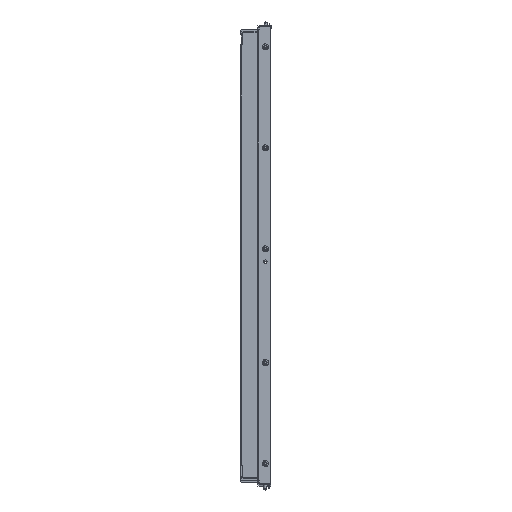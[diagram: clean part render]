
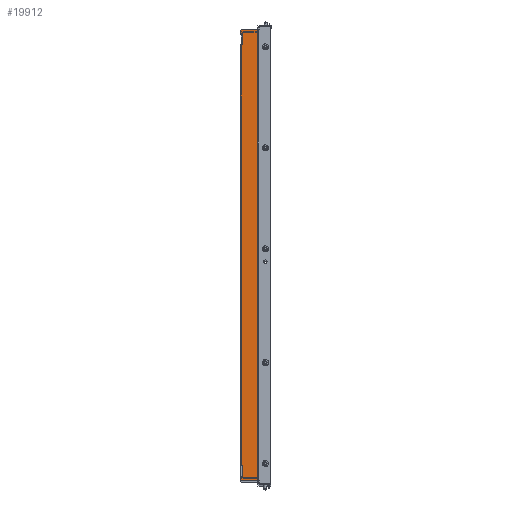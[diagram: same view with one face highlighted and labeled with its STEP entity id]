
A CAD part, top view. The second image highlights one B-rep face of the part: STEP entity #19912.
In plain terms, the highlighted planar face has unit normal (0, 0, 1).
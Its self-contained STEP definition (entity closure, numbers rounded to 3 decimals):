
#33 = ORIENTED_EDGE ( 'NONE', *, *, #34167, .F. ) ;
#660 = CARTESIAN_POINT ( 'NONE',  ( -29.193, -13.122, 2680. ) ) ;
#983 = CARTESIAN_POINT ( 'NONE',  ( -30.693, 16.878, 2680. ) ) ;
#985 = ORIENTED_EDGE ( 'NONE', *, *, #38042, .T. ) ;
#1574 = EDGE_CURVE ( 'NONE', #65885, #21383, #8192, .T. ) ;
#1699 = VERTEX_POINT ( 'NONE', #37254 ) ;
#2070 = VECTOR ( 'NONE', #2642, 1000. ) ;
#2157 = VECTOR ( 'NONE', #51408, 1000. ) ;
#2642 = DIRECTION ( 'NONE',  ( 1., 0., 0. ) ) ;
#2985 = CARTESIAN_POINT ( 'NONE',  ( -31.193, 885.378, 2680. ) ) ;
#2988 = LINE ( 'NONE', #54626, #66611 ) ;
#3505 = LINE ( 'NONE', #13889, #25215 ) ;
#4508 = CARTESIAN_POINT ( 'NONE',  ( -27.493, 885.378, 2680. ) ) ;
#4628 = LINE ( 'NONE', #46892, #11728 ) ;
#4660 = CARTESIAN_POINT ( 'NONE',  ( -27.493, 885.378, 2680. ) ) ;
#4921 = LINE ( 'NONE', #10802, #50302 ) ;
#5297 = EDGE_CURVE ( 'NONE', #17882, #44501, #14725, .T. ) ;
#6941 = VECTOR ( 'NONE', #45596, 1000. ) ;
#8192 = LINE ( 'NONE', #46641, #39060 ) ;
#8287 = CARTESIAN_POINT ( 'NONE',  ( 2.307, 849.878, 2680. ) ) ;
#9130 = LINE ( 'NONE', #30257, #2157 ) ;
#9216 = LINE ( 'NONE', #45276, #2070 ) ;
#10439 = DIRECTION ( 'NONE',  ( 0., -1., 0. ) ) ;
#10802 = CARTESIAN_POINT ( 'NONE',  ( 2.307, 885.378, 2680. ) ) ;
#11147 = EDGE_CURVE ( 'NONE', #44142, #48788, #20417, .T. ) ;
#11545 = VECTOR ( 'NONE', #24853, 1000. ) ;
#11728 = VECTOR ( 'NONE', #51079, 1000. ) ;
#12487 = CARTESIAN_POINT ( 'NONE',  ( -27.493, 850.378, 2680. ) ) ;
#12526 = VERTEX_POINT ( 'NONE', #36448 ) ;
#13838 = CARTESIAN_POINT ( 'NONE',  ( -27.493, 885.378, 2680. ) ) ;
#13867 = EDGE_CURVE ( 'NONE', #42386, #44142, #65457, .T. ) ;
#13889 = CARTESIAN_POINT ( 'NONE',  ( 2.307, -13.122, 2680. ) ) ;
#13943 = VERTEX_POINT ( 'NONE', #47066 ) ;
#14178 = CARTESIAN_POINT ( 'NONE',  ( -31.193, -7.122, 2680. ) ) ;
#14725 = LINE ( 'NONE', #61138, #15416 ) ;
#15294 = VECTOR ( 'NONE', #40168, 1000. ) ;
#15343 = CARTESIAN_POINT ( 'NONE',  ( -27.493, 872.678, 2680. ) ) ;
#15416 = VECTOR ( 'NONE', #56990, 1000. ) ;
#16084 = AXIS2_PLACEMENT_3D ( 'NONE', #59810, #23755, #23421 ) ;
#16143 = ORIENTED_EDGE ( 'NONE', *, *, #61218, .F. ) ;
#16433 = EDGE_CURVE ( 'NONE', #26940, #65885, #47862, .T. ) ;
#17882 = VERTEX_POINT ( 'NONE', #68291 ) ;
#18082 = CARTESIAN_POINT ( 'NONE',  ( -27.493, 885.378, 2680. ) ) ;
#19235 = DIRECTION ( 'NONE',  ( 0., 1., 0. ) ) ;
#19912 = ADVANCED_FACE ( 'NONE', ( #28274 ), #49771, .T. ) ;
#19956 = CARTESIAN_POINT ( 'NONE',  ( -31.193, -11.122, 2680. ) ) ;
#20417 = LINE ( 'NONE', #41546, #37936 ) ;
#20891 = ORIENTED_EDGE ( 'NONE', *, *, #60443, .F. ) ;
#21189 = EDGE_LOOP ( 'NONE', ( #54457, #65650, #51720, #985, #33, #16143, #53616, #58435, #54734, #56969, #20891, #49667, #50144, #30149, #62260, #52329, #35129, #38586 ) ) ;
#21383 = VERTEX_POINT ( 'NONE', #660 ) ;
#22086 = CARTESIAN_POINT ( 'NONE',  ( -30.693, 849.878, 2680. ) ) ;
#23278 = CARTESIAN_POINT ( 'NONE',  ( -31.193, 873.878, 2680. ) ) ;
#23421 = DIRECTION ( 'NONE',  ( 1., 0., 0. ) ) ;
#23755 = DIRECTION ( 'NONE',  ( 0., 0., 1. ) ) ;
#24853 = DIRECTION ( 'NONE',  ( -0.707, -0.707, 0. ) ) ;
#25215 = VECTOR ( 'NONE', #35016, 1000. ) ;
#25743 = EDGE_CURVE ( 'NONE', #51056, #56765, #65777, .T. ) ;
#26940 = VERTEX_POINT ( 'NONE', #14178 ) ;
#27681 = VECTOR ( 'NONE', #54791, 1000. ) ;
#28274 = FACE_OUTER_BOUND ( 'NONE', #21189, .T. ) ;
#28425 = CARTESIAN_POINT ( 'NONE',  ( 2.307, 879.878, 2680. ) ) ;
#30119 = EDGE_CURVE ( 'NONE', #26940, #47961, #4628, .T. ) ;
#30149 = ORIENTED_EDGE ( 'NONE', *, *, #13867, .T. ) ;
#30257 = CARTESIAN_POINT ( 'NONE',  ( 2.307, 879.878, 2680. ) ) ;
#32317 = CARTESIAN_POINT ( 'NONE',  ( -27.493, -7.122, 2680. ) ) ;
#32778 = VECTOR ( 'NONE', #10439, 1000. ) ;
#34002 = VECTOR ( 'NONE', #45037, 1000. ) ;
#34111 = VERTEX_POINT ( 'NONE', #15343 ) ;
#34167 = EDGE_CURVE ( 'NONE', #39865, #61744, #4921, .T. ) ;
#34332 = EDGE_CURVE ( 'NONE', #51056, #13943, #46356, .T. ) ;
#34619 = LINE ( 'NONE', #13838, #34002 ) ;
#35016 = DIRECTION ( 'NONE',  ( -1., 0., 0. ) ) ;
#35129 = ORIENTED_EDGE ( 'NONE', *, *, #61794, .F. ) ;
#36448 = CARTESIAN_POINT ( 'NONE',  ( -27.493, 16.878, 2680. ) ) ;
#37254 = CARTESIAN_POINT ( 'NONE',  ( 0.607, -13.122, 2680. ) ) ;
#37311 = EDGE_CURVE ( 'NONE', #1699, #21383, #3505, .T. ) ;
#37936 = VECTOR ( 'NONE', #60349, 1000. ) ;
#38042 = EDGE_CURVE ( 'NONE', #1699, #61744, #9216, .T. ) ;
#38586 = ORIENTED_EDGE ( 'NONE', *, *, #30119, .F. ) ;
#39060 = VECTOR ( 'NONE', #51498, 1000. ) ;
#39865 = VERTEX_POINT ( 'NONE', #28425 ) ;
#40168 = DIRECTION ( 'NONE',  ( -1., 0., 0. ) ) ;
#41546 = CARTESIAN_POINT ( 'NONE',  ( -30.693, -18.622, 2680. ) ) ;
#41577 = DIRECTION ( 'NONE',  ( 0., 1., 0. ) ) ;
#42329 = CARTESIAN_POINT ( 'NONE',  ( -31.193, 885.378, 2680. ) ) ;
#42386 = VERTEX_POINT ( 'NONE', #63791 ) ;
#43226 = VECTOR ( 'NONE', #49872, 1000. ) ;
#44142 = VERTEX_POINT ( 'NONE', #22086 ) ;
#44233 = DIRECTION ( 'NONE',  ( -1., 0., 0. ) ) ;
#44501 = VERTEX_POINT ( 'NONE', #23278 ) ;
#45037 = DIRECTION ( 'NONE',  ( 0., 1., 0. ) ) ;
#45276 = CARTESIAN_POINT ( 'NONE',  ( 5.507, -13.122, 2680. ) ) ;
#45596 = DIRECTION ( 'NONE',  ( 0., -1., 0. ) ) ;
#46356 = LINE ( 'NONE', #65165, #11545 ) ;
#46641 = CARTESIAN_POINT ( 'NONE',  ( -462.693, 420.378, 2680. ) ) ;
#46892 = CARTESIAN_POINT ( 'NONE',  ( 2.307, -7.122, 2680. ) ) ;
#47066 = CARTESIAN_POINT ( 'NONE',  ( -31.193, 877.878, 2680. ) ) ;
#47862 = LINE ( 'NONE', #42329, #32778 ) ;
#47961 = VERTEX_POINT ( 'NONE', #32317 ) ;
#48484 = EDGE_CURVE ( 'NONE', #42386, #64959, #34619, .T. ) ;
#48788 = VERTEX_POINT ( 'NONE', #983 ) ;
#49619 = LINE ( 'NONE', #18082, #27681 ) ;
#49667 = ORIENTED_EDGE ( 'NONE', *, *, #52882, .F. ) ;
#49771 = PLANE ( 'NONE',  #16084 ) ;
#49872 = DIRECTION ( 'NONE',  ( 1., 0., 0. ) ) ;
#50144 = ORIENTED_EDGE ( 'NONE', *, *, #48484, .F. ) ;
#50302 = VECTOR ( 'NONE', #58939, 1000. ) ;
#50952 = VECTOR ( 'NONE', #19235, 1000. ) ;
#51056 = VERTEX_POINT ( 'NONE', #59349 ) ;
#51079 = DIRECTION ( 'NONE',  ( 1., 0., 0. ) ) ;
#51408 = DIRECTION ( 'NONE',  ( 1., 0., 0. ) ) ;
#51447 = CARTESIAN_POINT ( 'NONE',  ( 2.307, -13.122, 2680. ) ) ;
#51498 = DIRECTION ( 'NONE',  ( 0.707, -0.707, 0. ) ) ;
#51720 = ORIENTED_EDGE ( 'NONE', *, *, #37311, .F. ) ;
#52136 = LINE ( 'NONE', #4660, #50952 ) ;
#52329 = ORIENTED_EDGE ( 'NONE', *, *, #54353, .F. ) ;
#52882 = EDGE_CURVE ( 'NONE', #64959, #34111, #67870, .T. ) ;
#53616 = ORIENTED_EDGE ( 'NONE', *, *, #25743, .F. ) ;
#54353 = EDGE_CURVE ( 'NONE', #12526, #48788, #2988, .T. ) ;
#54457 = ORIENTED_EDGE ( 'NONE', *, *, #16433, .T. ) ;
#54626 = CARTESIAN_POINT ( 'NONE',  ( -27.493, 16.878, 2680. ) ) ;
#54734 = ORIENTED_EDGE ( 'NONE', *, *, #64438, .T. ) ;
#54791 = DIRECTION ( 'NONE',  ( 0., 1., 0. ) ) ;
#55075 = CARTESIAN_POINT ( 'NONE',  ( 2.307, 879.878, 2680. ) ) ;
#55640 = LINE ( 'NONE', #2985, #6941 ) ;
#55755 = CARTESIAN_POINT ( 'NONE',  ( 0.607, 879.878, 2680. ) ) ;
#56765 = VERTEX_POINT ( 'NONE', #55755 ) ;
#56969 = ORIENTED_EDGE ( 'NONE', *, *, #5297, .F. ) ;
#56990 = DIRECTION ( 'NONE',  ( -1., 0., 0. ) ) ;
#58435 = ORIENTED_EDGE ( 'NONE', *, *, #34332, .T. ) ;
#58939 = DIRECTION ( 'NONE',  ( 0., -1., 0. ) ) ;
#59349 = CARTESIAN_POINT ( 'NONE',  ( -29.193, 879.878, 2680. ) ) ;
#59810 = CARTESIAN_POINT ( 'NONE',  ( 2.307, 885.378, 2680. ) ) ;
#60349 = DIRECTION ( 'NONE',  ( 0., -1., 0. ) ) ;
#60443 = EDGE_CURVE ( 'NONE', #34111, #17882, #49619, .T. ) ;
#61138 = CARTESIAN_POINT ( 'NONE',  ( 2.307, 873.878, 2680. ) ) ;
#61218 = EDGE_CURVE ( 'NONE', #56765, #39865, #9130, .T. ) ;
#61744 = VERTEX_POINT ( 'NONE', #51447 ) ;
#61794 = EDGE_CURVE ( 'NONE', #47961, #12526, #52136, .T. ) ;
#62260 = ORIENTED_EDGE ( 'NONE', *, *, #11147, .T. ) ;
#63791 = CARTESIAN_POINT ( 'NONE',  ( -27.493, 849.878, 2680. ) ) ;
#64438 = EDGE_CURVE ( 'NONE', #13943, #44501, #55640, .T. ) ;
#64453 = VECTOR ( 'NONE', #41577, 1000. ) ;
#64959 = VERTEX_POINT ( 'NONE', #12487 ) ;
#65165 = CARTESIAN_POINT ( 'NONE',  ( -10.693, 898.378, 2680. ) ) ;
#65457 = LINE ( 'NONE', #8287, #15294 ) ;
#65650 = ORIENTED_EDGE ( 'NONE', *, *, #1574, .T. ) ;
#65777 = LINE ( 'NONE', #55075, #43226 ) ;
#65885 = VERTEX_POINT ( 'NONE', #19956 ) ;
#66611 = VECTOR ( 'NONE', #44233, 1000. ) ;
#67870 = LINE ( 'NONE', #4508, #64453 ) ;
#68291 = CARTESIAN_POINT ( 'NONE',  ( -27.493, 873.878, 2680. ) ) ;
